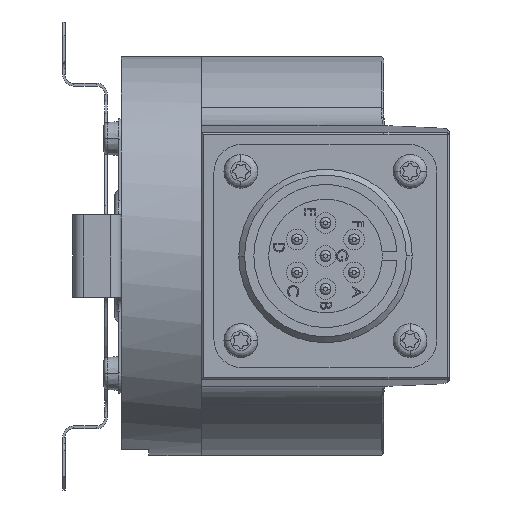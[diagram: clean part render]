
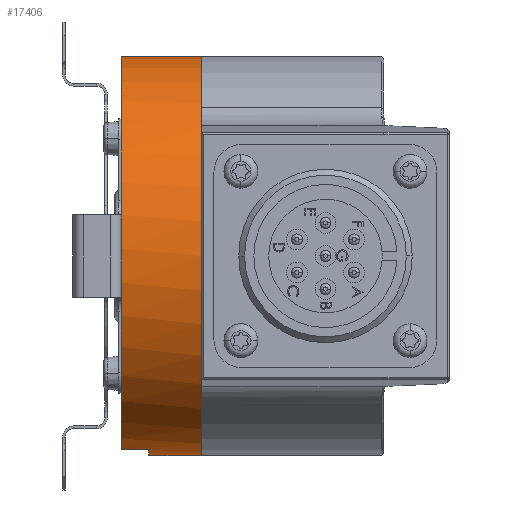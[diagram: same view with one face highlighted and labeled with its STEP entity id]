
A CAD part, front view. The second image highlights one B-rep face of the part: STEP entity #17406.
In plain terms, the highlighted cylindrical face has radius 29 mm (diameter 58 mm), a partial arc.
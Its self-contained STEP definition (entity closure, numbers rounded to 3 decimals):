
#821 = EDGE_CURVE ( 'NONE', #18122, #4385, #8237, .T. ) ;
#1143 = CARTESIAN_POINT ( 'NONE',  ( 0.378, 25.423, 0. ) ) ;
#1858 = DIRECTION ( 'NONE',  ( 1., 0., 0. ) ) ;
#1950 = DIRECTION ( 'NONE',  ( -1., 0., 0. ) ) ;
#2427 = DIRECTION ( 'NONE',  ( 1., 0., 0. ) ) ;
#3674 = LINE ( 'NONE', #14279, #16150 ) ;
#4130 = DIRECTION ( 'NONE',  ( 1., 0., 0. ) ) ;
#4385 = VERTEX_POINT ( 'NONE', #26895 ) ;
#4851 = CARTESIAN_POINT ( 'NONE',  ( 0.378, 25.423, -29. ) ) ;
#4912 = EDGE_CURVE ( 'NONE', #26670, #11348, #10432, .T. ) ;
#5212 = DIRECTION ( 'NONE',  ( 1., 0., 0. ) ) ;
#5753 = EDGE_CURVE ( 'NONE', #20261, #4385, #9143, .T. ) ;
#6130 = CARTESIAN_POINT ( 'NONE',  ( -3.622, 25.423, 0. ) ) ;
#7283 = DIRECTION ( 'NONE',  ( 1., 0., 0. ) ) ;
#7574 = DIRECTION ( 'NONE',  ( 0., 0., 1. ) ) ;
#7763 = ORIENTED_EDGE ( 'NONE', *, *, #23437, .T. ) ;
#7943 = DIRECTION ( 'NONE',  ( 0., 0., -1. ) ) ;
#8237 = LINE ( 'NONE', #10459, #25048 ) ;
#9143 = CIRCLE ( 'NONE', #20286, 29. ) ;
#9528 = AXIS2_PLACEMENT_3D ( 'NONE', #1143, #7283, #7574 ) ;
#10432 = CIRCLE ( 'NONE', #26490, 29. ) ;
#10459 = CARTESIAN_POINT ( 'NONE',  ( 8.068, 18.423, -28.142 ) ) ;
#11348 = VERTEX_POINT ( 'NONE', #21786 ) ;
#11447 = CARTESIAN_POINT ( 'NONE',  ( 8.068, 25.423, 29. ) ) ;
#11736 = CARTESIAN_POINT ( 'NONE',  ( 0.378, 18.423, -28.142 ) ) ;
#13139 = AXIS2_PLACEMENT_3D ( 'NONE', #24792, #4130, #14172 ) ;
#14172 = DIRECTION ( 'NONE',  ( 0., 0., -1. ) ) ;
#14279 = CARTESIAN_POINT ( 'NONE',  ( 8.068, 25.423, 29. ) ) ;
#15075 = DIRECTION ( 'NONE',  ( 1., 0., 0. ) ) ;
#15080 = EDGE_CURVE ( 'NONE', #20261, #26670, #3674, .T. ) ;
#15396 = LINE ( 'NONE', #21564, #20064 ) ;
#15757 = EDGE_CURVE ( 'NONE', #18122, #16718, #24222, .T. ) ;
#16150 = VECTOR ( 'NONE', #1858, 1000. ) ;
#16377 = ORIENTED_EDGE ( 'NONE', *, *, #4912, .F. ) ;
#16718 = VERTEX_POINT ( 'NONE', #4851 ) ;
#17406 = ADVANCED_FACE ( 'NONE', ( #19063 ), #22834, .T. ) ;
#18122 = VERTEX_POINT ( 'NONE', #11736 ) ;
#18249 = ORIENTED_EDGE ( 'NONE', *, *, #821, .F. ) ;
#19063 = FACE_OUTER_BOUND ( 'NONE', #23121, .T. ) ;
#19996 = ORIENTED_EDGE ( 'NONE', *, *, #15080, .F. ) ;
#20064 = VECTOR ( 'NONE', #2427, 1000. ) ;
#20261 = VERTEX_POINT ( 'NONE', #27305 ) ;
#20286 = AXIS2_PLACEMENT_3D ( 'NONE', #6130, #5212, #7943 ) ;
#21249 = CARTESIAN_POINT ( 'NONE',  ( 8.068, 25.423, 0. ) ) ;
#21564 = CARTESIAN_POINT ( 'NONE',  ( 8.068, 25.423, -29. ) ) ;
#21786 = CARTESIAN_POINT ( 'NONE',  ( 8.068, 25.423, -29. ) ) ;
#21796 = DIRECTION ( 'NONE',  ( 0., 0., -1. ) ) ;
#21846 = ORIENTED_EDGE ( 'NONE', *, *, #15757, .T. ) ;
#22834 = CYLINDRICAL_SURFACE ( 'NONE', #13139, 29. ) ;
#23121 = EDGE_LOOP ( 'NONE', ( #19996, #23373, #18249, #21846, #7763, #16377 ) ) ;
#23373 = ORIENTED_EDGE ( 'NONE', *, *, #5753, .T. ) ;
#23437 = EDGE_CURVE ( 'NONE', #16718, #11348, #15396, .T. ) ;
#24222 = CIRCLE ( 'NONE', #9528, 29. ) ;
#24792 = CARTESIAN_POINT ( 'NONE',  ( 8.068, 25.423, 0. ) ) ;
#25048 = VECTOR ( 'NONE', #1950, 1000. ) ;
#26490 = AXIS2_PLACEMENT_3D ( 'NONE', #21249, #15075, #21796 ) ;
#26670 = VERTEX_POINT ( 'NONE', #11447 ) ;
#26895 = CARTESIAN_POINT ( 'NONE',  ( -3.622, 18.423, -28.142 ) ) ;
#27305 = CARTESIAN_POINT ( 'NONE',  ( -3.622, 25.423, 29. ) ) ;
